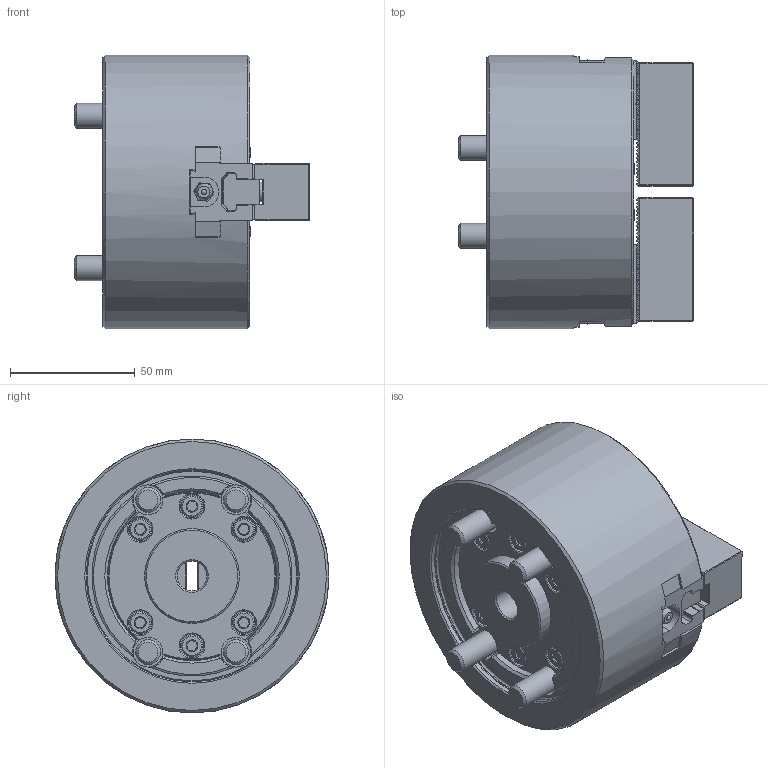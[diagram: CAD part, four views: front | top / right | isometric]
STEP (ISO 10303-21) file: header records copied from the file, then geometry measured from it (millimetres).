
FILE_DESCRIPTION (( 'STEP AP214' ), '1' );
FILE_NAME ('DT1_BT204_OUTSIDE_VIEW_HOL.STEP', '2024-05-08T23:15:05', ( '' ), ( '' ), 'SwSTEP 2.0', 'SolidWorks 2022', '' );
FILE_SCHEMA (( 'AUTOMOTIVE_DESIGN' ));
Length unit declared in the file: millimetre
Products named in the file (9): DT1_BT204_OUTSIDE_VIEW_HOL; DT1_BT204_DRAWNUT^DT1-BT204_ﾃﾞﾌｫﾙﾄ; DT1_BT204_COVER^DT1-BT204_ﾃﾞﾌｫﾙﾄ; DT1_BT204_SOFTJAW^DT1-BT204_ﾃﾞﾌｫﾙﾄ; DT1_BT204_M8x20^DT1-BT204_ﾃﾞﾌｫﾙﾄ; DT1_BT204_BASE^DT1-BT204_ﾃﾞﾌｫﾙﾄ; DT1_BT204_M10x60^DT1-BT204_ﾃﾞﾌｫﾙﾄ; DT1_BT204_TNUT^DT1-BT204_ﾃﾞﾌｫﾙﾄ; DT1_BT204_M4x8^DT1-BT204_ﾃﾞﾌｫﾙﾄ
Assembly tree (19 placements, depth 2):
  DT1_BT204_OUTSIDE_VIEW_HOL
    DT1_BT204_SOFTJAW^DT1-BT204_ﾃﾞﾌｫﾙﾄ  x2
    DT1_BT204_TNUT^DT1-BT204_ﾃﾞﾌｫﾙﾄ  x2
    DT1_BT204_DRAWNUT^DT1-BT204_ﾃﾞﾌｫﾙﾄ
    DT1_BT204_COVER^DT1-BT204_ﾃﾞﾌｫﾙﾄ
    DT1_BT204_BASE^DT1-BT204_ﾃﾞﾌｫﾙﾄ
    DT1_BT204_M4x8^DT1-BT204_ﾃﾞﾌｫﾙﾄ  x4
    DT1_BT204_M8x20^DT1-BT204_ﾃﾞﾌｫﾙﾄ  x4
    DT1_BT204_M10x60^DT1-BT204_ﾃﾞﾌｫﾙﾄ  x4
Bounding box: 94.5 x 110 x 110 mm (x, y, z)
Volume: 541182.5 mm3; surface area: 113402.9 mm2
Topology: 19 solids, 27 shells, 2293 faces, 6316 edges, 4161 vertices
Faces by surface type: plane 1632, cylinder 403, cone 131, bspline 108, torus 15, sphere 4
Full cylindrical faces by diameter (mm): 3.3 x4, 4 x4, 4.5 x4, 6.8 x4, 7.5 x4, 8 x4, 8.5 x8, 8.72 x6, 9.5 x6, 10 x4, 12 x5, 13.27 x4, 13.5 x4, 16.27 x4, 17 x4, 26 x1, 29 x2, 32.5 x1, 35.8 x1, 38 x2, 85 x1, 85.8 x1, 110 x1
Entity records: 61557 total; most frequent: CARTESIAN_POINT 16529, ORIENTED_EDGE 9808, DIRECTION 8183, EDGE_CURVE 4904, LINE 3695, VECTOR 3695, VERTEX_POINT 3298, AXIS2_PLACEMENT_3D 2244
